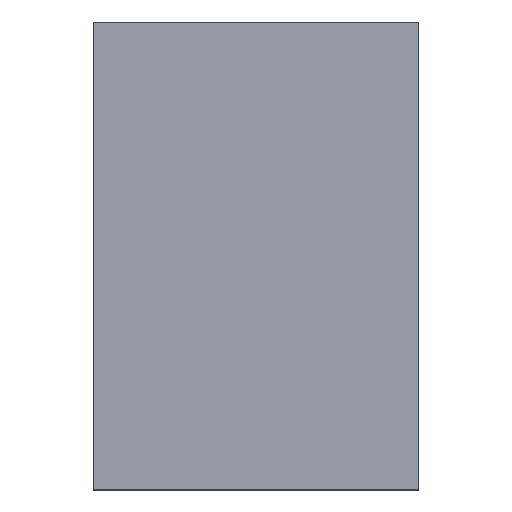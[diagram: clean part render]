
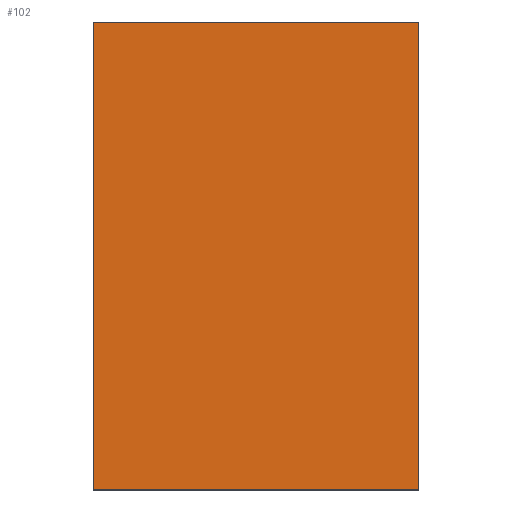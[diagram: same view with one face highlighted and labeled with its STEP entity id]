
A CAD part, top view. The second image highlights one B-rep face of the part: STEP entity #102.
In plain terms, the highlighted planar face has unit normal (0, 0, 1).
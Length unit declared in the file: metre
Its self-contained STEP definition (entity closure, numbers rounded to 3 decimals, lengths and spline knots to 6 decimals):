
#28=ORIENTED_EDGE('',*,*,#47,.T.);
#29=ORIENTED_EDGE('',*,*,#44,.T.);
#30=ORIENTED_EDGE('',*,*,#41,.T.);
#31=ORIENTED_EDGE('',*,*,#38,.T.);
#38=EDGE_CURVE('',#51,#50,#58,.T.);
#41=EDGE_CURVE('',#53,#51,#61,.F.);
#44=EDGE_CURVE('',#55,#53,#64,.F.);
#47=EDGE_CURVE('',#50,#55,#67,.T.);
#50=VERTEX_POINT('',#147);
#51=VERTEX_POINT('',#149);
#53=VERTEX_POINT('',#155);
#55=VERTEX_POINT('',#161);
#58=LINE('',#148,#70);
#61=LINE('',#154,#73);
#64=LINE('',#160,#76);
#67=LINE('',#165,#79);
#70=VECTOR('',#121,1.);
#73=VECTOR('',#126,1.);
#76=VECTOR('',#131,1.);
#79=VECTOR('',#136,1.);
#84=EDGE_LOOP('',(#28,#29,#30,#31));
#90=FACE_BOUND('',#84,.T.);
#96=PLANE('',#113);
#102=ADVANCED_FACE('',(#90),#96,.T.);
#113=AXIS2_PLACEMENT_3D('',#166,#137,#138);
#121=DIRECTION('',(1.,0.,0.));
#126=DIRECTION('',(0.,1.,0.));
#131=DIRECTION('',(1.,0.,0.));
#136=DIRECTION('',(0.,1.,0.));
#137=DIRECTION('',(0.,0.,1.));
#138=DIRECTION('',(1.,0.,0.));
#147=CARTESIAN_POINT('',(0.010398,0.0023,-0.0274));
#148=CARTESIAN_POINT('',(0.009598,0.0023,-0.0274));
#149=CARTESIAN_POINT('',(0.008798,0.0023,-0.0274));
#154=CARTESIAN_POINT('',(0.008798,0.00345,-0.0274));
#155=CARTESIAN_POINT('',(0.008798,0.0046,-0.0274));
#160=CARTESIAN_POINT('',(0.009598,0.0046,-0.0274));
#161=CARTESIAN_POINT('',(0.010398,0.0046,-0.0274));
#165=CARTESIAN_POINT('',(0.010398,0.00345,-0.0274));
#166=CARTESIAN_POINT('',(0.009598,0.00345,-0.0274));
